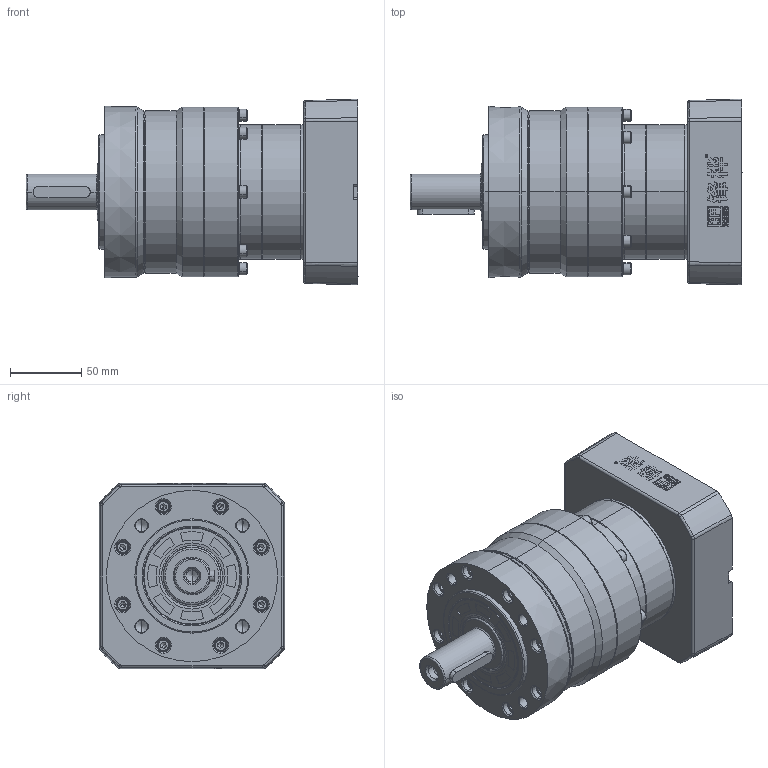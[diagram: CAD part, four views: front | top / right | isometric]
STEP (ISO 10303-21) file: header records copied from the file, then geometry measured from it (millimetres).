
FILE_DESCRIPTION (( 'STEP AP214' ), '1' );
FILE_NAME ('FE090-L2-S2-P2 22-110-145-M8.STEP', '2021-04-23T07:40:25', ( 'Microsoft' ), ( 'Microsoft China' ), 'SwSTEP 2.0', 'SolidWorks 2016', '' );
FILE_SCHEMA (( 'AUTOMOTIVE_DESIGN' ));
Length unit declared in the file: millimetre
Products named in the file (16): FE090-L2-S2-P2 22-110-145-M8; 怀堤傷褲极FE120; hexagon socket head cap screws gb_GB_FASTENER_SCREWS_HSHCS M5X20-N; spring lock washers--normal type gb_GB_FASTENER_WASHER_SW 5; 一级内齿圈壳体FE090D; 怀堤俴陎殤FE115D-25-50-M10; 内齿圈FE120; 嘎殤蚐猾 40-68-8; A倰す瑩8-40; hex socket set screws with cone point gb_GB_FASTENER_SCREWS_HSCP M12X10-N_1; hexagon socket head cap screws gb_GB_FASTENER_SCREWS_HSHCS M5X10-N; hexagon socket head cap screws gb_GB_FASTENER_SCREWS_HSHCS M6X10-N; 输入轴锁紧环 26-52-14; 输入太阳齿轮FE090-5M1-22; 13-FE090M1-110; 输入端壳体FE090M1
Assembly tree (42 placements, depth 2):
  FE090-L2-S2-P2 22-110-145-M8
    输入端壳体FE090M1
    13-FE090M1-110
    输入太阳齿轮FE090-5M1-22
    输入轴锁紧环 26-52-14
    hexagon socket head cap screws gb_GB_FASTENER_SCREWS_HSHCS M6X10-N
    hexagon socket head cap screws gb_GB_FASTENER_SCREWS_HSHCS M5X10-N  x6
    hex socket set screws with cone point gb_GB_FASTENER_SCREWS_HSCP M12X10-N_1
    A倰す瑩8-40
    嘎殤蚐猾 40-68-8
    内齿圈FE120
    怀堤俴陎殤FE115D-25-50-M10
    一级内齿圈壳体FE090D
    spring lock washers--normal type gb_GB_FASTENER_WASHER_SW 5  x8
    hexagon socket head cap screws gb_GB_FASTENER_SCREWS_HSHCS M5X20-N  x16
    怀堤傷褲极FE120
Bounding box: 232.5 x 130 x 130 mm (x, y, z)
Volume: 1706807.1 mm3; surface area: 279731.4 mm2
Topology: 42 solids, 42 shells, 2073 faces, 4935 edges, 3017 vertices
Faces by surface type: plane 822, bspline 530, cone 344, cylinder 338, torus 39
Entity records: 80596 total; most frequent: CARTESIAN_POINT 31433, ORIENTED_EDGE 7178, DIRECTION 5730, EDGE_CURVE 3589, VERTEX_POINT 2225, AXIS2_PLACEMENT_3D 2083, EDGE_LOOP 1662, LINE 1564
